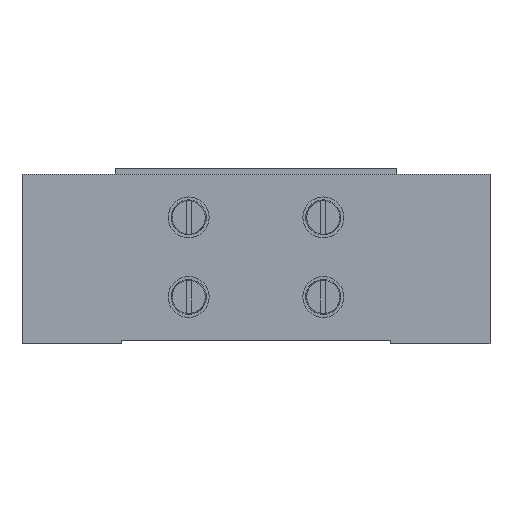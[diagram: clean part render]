
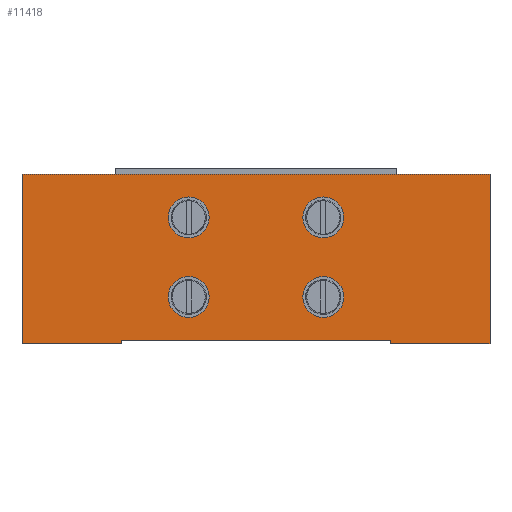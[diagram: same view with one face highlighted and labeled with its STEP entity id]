
A CAD part, left-side view. The second image highlights one B-rep face of the part: STEP entity #11418.
In plain terms, the highlighted planar face has unit normal (-1, 0, 0).
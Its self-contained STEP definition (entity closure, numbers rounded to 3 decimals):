
#225 = CARTESIAN_POINT ( 'NONE',  ( -20., -20., 0. ) ) ;
#226 = DIRECTION ( 'NONE',  ( 0., -1., 0. ) ) ;
#232 = CARTESIAN_POINT ( 'NONE',  ( -20., -11.5, 0.25 ) ) ;
#233 = DIRECTION ( 'NONE',  ( 0., 0., -1. ) ) ;
#255 = CARTESIAN_POINT ( 'NONE',  ( -20., 20., 14.5 ) ) ;
#256 = DIRECTION ( 'NONE',  ( 0., 0., -1. ) ) ;
#302 = CARTESIAN_POINT ( 'NONE',  ( -20., 5.75, 4. ) ) ;
#303 = DIRECTION ( 'NONE',  ( -1., 0., 0. ) ) ;
#304 = DIRECTION ( 'NONE',  ( 0., 0., 1. ) ) ;
#515 = CARTESIAN_POINT ( 'NONE',  ( -20., -5.75, 4. ) ) ;
#516 = DIRECTION ( 'NONE',  ( -1., 0., 0. ) ) ;
#517 = DIRECTION ( 'NONE',  ( 0., 0., 1. ) ) ;
#523 = CARTESIAN_POINT ( 'NONE',  ( -20., -20., 14.5 ) ) ;
#524 = DIRECTION ( 'NONE',  ( 0., 0., -1. ) ) ;
#1596 = FACE_BOUND ( 'NONE', #13994, .T. ) ;
#1597 = FACE_BOUND ( 'NONE', #13999, .T. ) ;
#1598 = FACE_OUTER_BOUND ( 'NONE', #14000, .T. ) ;
#1599 = FACE_BOUND ( 'NONE', #13997, .T. ) ;
#1600 = FACE_BOUND ( 'NONE', #13996, .T. ) ;
#1951 = VERTEX_POINT ( 'NONE', #3440 ) ;
#1952 = VERTEX_POINT ( 'NONE', #3441 ) ;
#1953 = VERTEX_POINT ( 'NONE', #3442 ) ;
#1954 = VERTEX_POINT ( 'NONE', #3443 ) ;
#1955 = VERTEX_POINT ( 'NONE', #3444 ) ;
#1956 = VERTEX_POINT ( 'NONE', #3445 ) ;
#2060 = CIRCLE ( 'NONE', #11847, 1.75 ) ;
#3440 = CARTESIAN_POINT ( 'NONE',  ( -20., -20., 0. ) ) ;
#3441 = CARTESIAN_POINT ( 'NONE',  ( -20., -11.5, 0. ) ) ;
#3442 = CARTESIAN_POINT ( 'NONE',  ( -20., 20., 14.5 ) ) ;
#3443 = CARTESIAN_POINT ( 'NONE',  ( -20., -20., 14.5 ) ) ;
#3444 = CARTESIAN_POINT ( 'NONE',  ( -20., 11.5, 0.25 ) ) ;
#3445 = CARTESIAN_POINT ( 'NONE',  ( -20., -11.5, 0.25 ) ) ;
#3728 = CARTESIAN_POINT ( 'NONE',  ( -20., 5.75, 10.8 ) ) ;
#3729 = DIRECTION ( 'NONE',  ( -1., 0., 0. ) ) ;
#3730 = DIRECTION ( 'NONE',  ( 0., 0., 1. ) ) ;
#4418 = AXIS2_PLACEMENT_3D ( 'NONE', #302, #303, #304 ) ;
#4458 = AXIS2_PLACEMENT_3D ( 'NONE', #515, #516, #517 ) ;
#6031 = EDGE_CURVE ( 'NONE', #13835, #13948, #2060, .T. ) ;
#7069 = ORIENTED_EDGE ( 'NONE', *, *, #12431, .F. ) ;
#7070 = ORIENTED_EDGE ( 'NONE', *, *, #12491, .F. ) ;
#7071 = ORIENTED_EDGE ( 'NONE', *, *, #12428, .F. ) ;
#7072 = ORIENTED_EDGE ( 'NONE', *, *, #12578, .F. ) ;
#7073 = ORIENTED_EDGE ( 'NONE', *, *, #12463, .T. ) ;
#7074 = ORIENTED_EDGE ( 'NONE', *, *, #12426, .F. ) ;
#7075 = ORIENTED_EDGE ( 'NONE', *, *, #12388, .F. ) ;
#7076 = ORIENTED_EDGE ( 'NONE', *, *, #12465, .T. ) ;
#7077 = ORIENTED_EDGE ( 'NONE', *, *, #12389, .T. ) ;
#7078 = ORIENTED_EDGE ( 'NONE', *, *, #12581, .F. ) ;
#7079 = ORIENTED_EDGE ( 'NONE', *, *, #12383, .F. ) ;
#7080 = ORIENTED_EDGE ( 'NONE', *, *, #12475, .T. ) ;
#7081 = ORIENTED_EDGE ( 'NONE', *, *, #12392, .F. ) ;
#7082 = ORIENTED_EDGE ( 'NONE', *, *, #12397, .F. ) ;
#7083 = ORIENTED_EDGE ( 'NONE', *, *, #12386, .F. ) ;
#7084 = ORIENTED_EDGE ( 'NONE', *, *, #6031, .F. ) ;
#7760 = AXIS2_PLACEMENT_3D ( 'NONE', #12162, #12157, #12168 ) ;
#8048 = AXIS2_PLACEMENT_3D ( 'NONE', #14364, #14365, #14366 ) ;
#8050 = AXIS2_PLACEMENT_3D ( 'NONE', #14378, #14379, #14380 ) ;
#8051 = AXIS2_PLACEMENT_3D ( 'NONE', #14388, #14389, #14390 ) ;
#8066 = AXIS2_PLACEMENT_3D ( 'NONE', #14463, #14464, #14465 ) ;
#8069 = AXIS2_PLACEMENT_3D ( 'NONE', #14472, #14473, #14474 ) ;
#10552 = CARTESIAN_POINT ( 'NONE',  ( -20., -5.75, 12.55 ) ) ;
#10556 = CARTESIAN_POINT ( 'NONE',  ( -20., 5.75, 2.25 ) ) ;
#10600 = CARTESIAN_POINT ( 'NONE',  ( -20., 5.75, 9.05 ) ) ;
#10617 = CARTESIAN_POINT ( 'NONE',  ( -20., 20., 0. ) ) ;
#10618 = CARTESIAN_POINT ( 'NONE',  ( -20., -5.75, 5.75 ) ) ;
#10621 = CARTESIAN_POINT ( 'NONE',  ( -20., -5.75, 2.25 ) ) ;
#10649 = CARTESIAN_POINT ( 'NONE',  ( -20., -5.75, 9.05 ) ) ;
#10661 = CARTESIAN_POINT ( 'NONE',  ( -20., 5.75, 5.75 ) ) ;
#10713 = CARTESIAN_POINT ( 'NONE',  ( -20., 5.75, 12.55 ) ) ;
#10730 = CARTESIAN_POINT ( 'NONE',  ( -20., 11.5, 0. ) ) ;
#11418 = ADVANCED_FACE ( 'NONE', ( #1596, #1600, #1598, #1599, #1597 ), #12165, .F. ) ;
#11847 = AXIS2_PLACEMENT_3D ( 'NONE', #3728, #3729, #3730 ) ;
#12157 = DIRECTION ( 'NONE',  ( 1., 0., 0. ) ) ;
#12162 = CARTESIAN_POINT ( 'NONE',  ( -20., -20., 14.5 ) ) ;
#12165 = PLANE ( 'NONE',  #7760 ) ;
#12168 = DIRECTION ( 'NONE',  ( 0., 0., -1. ) ) ;
#12383 = EDGE_CURVE ( 'NONE', #1953, #1954, #13053, .T. ) ;
#12386 = EDGE_CURVE ( 'NONE', #13948, #13835, #13058, .T. ) ;
#12388 = EDGE_CURVE ( 'NONE', #1956, #1955, #13060, .T. ) ;
#12389 = EDGE_CURVE ( 'NONE', #1952, #1951, #13063, .T. ) ;
#12392 = EDGE_CURVE ( 'NONE', #13779, #13884, #13065, .T. ) ;
#12397 = EDGE_CURVE ( 'NONE', #13884, #13779, #13077, .T. ) ;
#12426 = EDGE_CURVE ( 'NONE', #1955, #13965, #13120, .T. ) ;
#12428 = EDGE_CURVE ( 'NONE', #13853, #13856, #13124, .T. ) ;
#12431 = EDGE_CURVE ( 'NONE', #13896, #13788, #13127, .T. ) ;
#12463 = EDGE_CURVE ( 'NONE', #13852, #13965, #13180, .T. ) ;
#12465 = EDGE_CURVE ( 'NONE', #1956, #1952, #13183, .T. ) ;
#12475 = EDGE_CURVE ( 'NONE', #1953, #13852, #13200, .T. ) ;
#12491 = EDGE_CURVE ( 'NONE', #13788, #13896, #13226, .T. ) ;
#12578 = EDGE_CURVE ( 'NONE', #13856, #13853, #13360, .T. ) ;
#12581 = EDGE_CURVE ( 'NONE', #1954, #1951, #13363, .T. ) ;
#13053 = LINE ( 'NONE', #14349, #13055 ) ;
#13055 = VECTOR ( 'NONE', #14350, 1000. ) ;
#13058 = CIRCLE ( 'NONE', #8048, 1.75 ) ;
#13060 = LINE ( 'NONE', #14362, #13064 ) ;
#13063 = LINE ( 'NONE', #14369, #13066 ) ;
#13064 = VECTOR ( 'NONE', #14368, 1000. ) ;
#13065 = CIRCLE ( 'NONE', #8050, 1.75 ) ;
#13066 = VECTOR ( 'NONE', #14371, 1000. ) ;
#13077 = CIRCLE ( 'NONE', #8051, 1.75 ) ;
#13120 = LINE ( 'NONE', #14459, #13123 ) ;
#13123 = VECTOR ( 'NONE', #14460, 1000. ) ;
#13124 = CIRCLE ( 'NONE', #8066, 1.75 ) ;
#13127 = CIRCLE ( 'NONE', #8069, 1.75 ) ;
#13180 = LINE ( 'NONE', #225, #13182 ) ;
#13182 = VECTOR ( 'NONE', #226, 1000. ) ;
#13183 = LINE ( 'NONE', #232, #13185 ) ;
#13185 = VECTOR ( 'NONE', #233, 1000. ) ;
#13200 = LINE ( 'NONE', #255, #13202 ) ;
#13202 = VECTOR ( 'NONE', #256, 1000. ) ;
#13226 = CIRCLE ( 'NONE', #4418, 1.75 ) ;
#13360 = CIRCLE ( 'NONE', #4458, 1.75 ) ;
#13363 = LINE ( 'NONE', #523, #13366 ) ;
#13366 = VECTOR ( 'NONE', #524, 1000. ) ;
#13779 = VERTEX_POINT ( 'NONE', #10552 ) ;
#13788 = VERTEX_POINT ( 'NONE', #10556 ) ;
#13835 = VERTEX_POINT ( 'NONE', #10600 ) ;
#13852 = VERTEX_POINT ( 'NONE', #10617 ) ;
#13853 = VERTEX_POINT ( 'NONE', #10618 ) ;
#13856 = VERTEX_POINT ( 'NONE', #10621 ) ;
#13884 = VERTEX_POINT ( 'NONE', #10649 ) ;
#13896 = VERTEX_POINT ( 'NONE', #10661 ) ;
#13948 = VERTEX_POINT ( 'NONE', #10713 ) ;
#13965 = VERTEX_POINT ( 'NONE', #10730 ) ;
#13994 = EDGE_LOOP ( 'NONE', ( #7069, #7070 ) ) ;
#13996 = EDGE_LOOP ( 'NONE', ( #7071, #7072 ) ) ;
#13997 = EDGE_LOOP ( 'NONE', ( #7081, #7082 ) ) ;
#13999 = EDGE_LOOP ( 'NONE', ( #7083, #7084 ) ) ;
#14000 = EDGE_LOOP ( 'NONE', ( #7073, #7074, #7075, #7076, #7077, #7078, #7079, #7080 ) ) ;
#14349 = CARTESIAN_POINT ( 'NONE',  ( -20., -20., 14.5 ) ) ;
#14350 = DIRECTION ( 'NONE',  ( 0., -1., 0. ) ) ;
#14362 = CARTESIAN_POINT ( 'NONE',  ( -20., -11.5, 0.25 ) ) ;
#14364 = CARTESIAN_POINT ( 'NONE',  ( -20., 5.75, 10.8 ) ) ;
#14365 = DIRECTION ( 'NONE',  ( -1., 0., 0. ) ) ;
#14366 = DIRECTION ( 'NONE',  ( 0., 0., 1. ) ) ;
#14368 = DIRECTION ( 'NONE',  ( 0., 1., 0. ) ) ;
#14369 = CARTESIAN_POINT ( 'NONE',  ( -20., -20., 0. ) ) ;
#14371 = DIRECTION ( 'NONE',  ( 0., -1., 0. ) ) ;
#14378 = CARTESIAN_POINT ( 'NONE',  ( -20., -5.75, 10.8 ) ) ;
#14379 = DIRECTION ( 'NONE',  ( -1., 0., 0. ) ) ;
#14380 = DIRECTION ( 'NONE',  ( 0., 0., 1. ) ) ;
#14388 = CARTESIAN_POINT ( 'NONE',  ( -20., -5.75, 10.8 ) ) ;
#14389 = DIRECTION ( 'NONE',  ( -1., 0., 0. ) ) ;
#14390 = DIRECTION ( 'NONE',  ( 0., 0., 1. ) ) ;
#14459 = CARTESIAN_POINT ( 'NONE',  ( -20., 11.5, 0.25 ) ) ;
#14460 = DIRECTION ( 'NONE',  ( 0., 0., -1. ) ) ;
#14463 = CARTESIAN_POINT ( 'NONE',  ( -20., -5.75, 4. ) ) ;
#14464 = DIRECTION ( 'NONE',  ( -1., 0., 0. ) ) ;
#14465 = DIRECTION ( 'NONE',  ( 0., 0., 1. ) ) ;
#14472 = CARTESIAN_POINT ( 'NONE',  ( -20., 5.75, 4. ) ) ;
#14473 = DIRECTION ( 'NONE',  ( -1., 0., 0. ) ) ;
#14474 = DIRECTION ( 'NONE',  ( 0., 0., 1. ) ) ;
